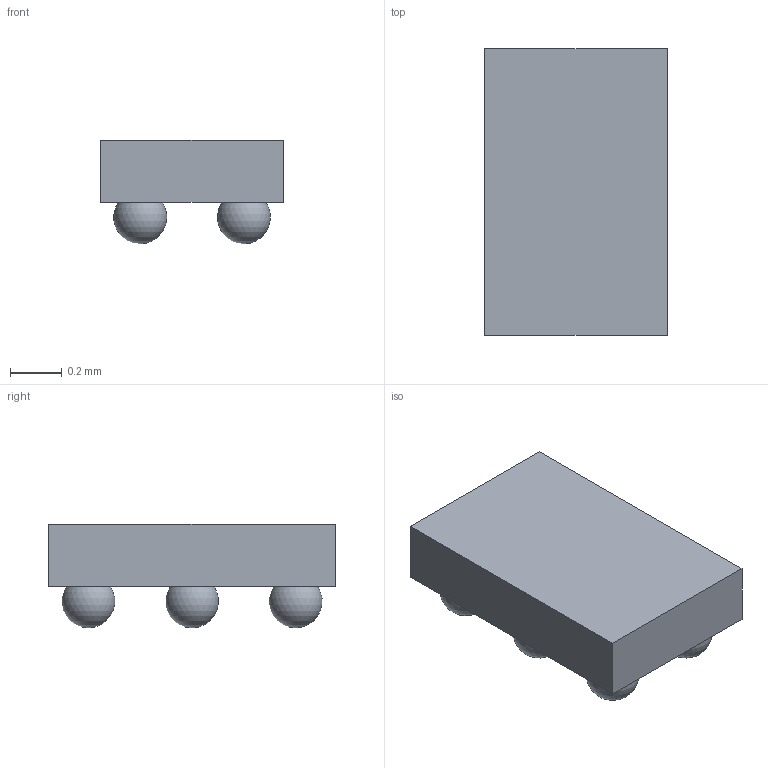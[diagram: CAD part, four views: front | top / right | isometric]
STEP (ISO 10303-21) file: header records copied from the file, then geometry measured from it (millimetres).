
FILE_DESCRIPTION(('FreeCAD Model'),'2;1');
FILE_NAME('Open CASCADE Shape Model','2026-11-12T17:17:04',('FreeCAD'),( 'FreeCAD'),'Open CASCADE STEP processor 7.8','FreeCAD','Unknown');
FILE_SCHEMA(('AUTOMOTIVE_DESIGN { 1 0 10303 214 1 1 1 1 }'));
Length unit declared in the file: millimetre
Products named in the file (1): Open CASCADE STEP translator 7.8 1
Bounding box: 0.71 x 1.11 x 0.4 mm (x, y, z)
Volume: 0.2 mm3; surface area: 3.2 mm2
Topology: 7 solids, 7 shells, 18 faces, 30 edges, 20 vertices
Faces by surface type: plane 12, sphere 6
Entity records: 394 total; most frequent: DIRECTION 74, CARTESIAN_POINT 63, ORIENTED_EDGE 48, AXIS2_PLACEMENT_3D 31, EDGE_CURVE 24, VERTEX_POINT 20, ADVANCED_FACE 18, FACE_BOUND 18
